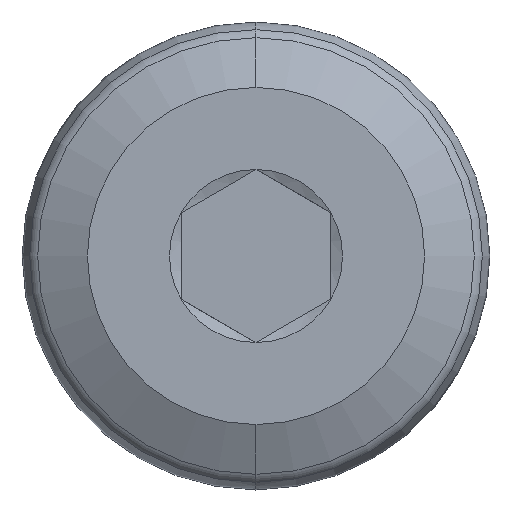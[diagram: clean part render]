
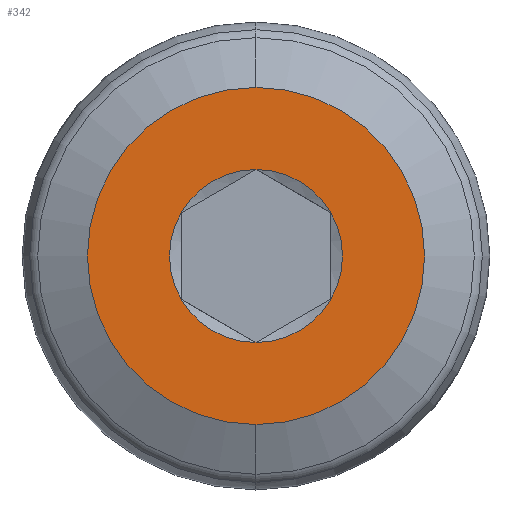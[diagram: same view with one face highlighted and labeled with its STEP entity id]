
A CAD part, left-side view. The second image highlights one B-rep face of the part: STEP entity #342.
In plain terms, the highlighted planar face has unit normal (-1, 0, 0).
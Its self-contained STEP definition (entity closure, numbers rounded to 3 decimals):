
#8 = AXIS2_PLACEMENT_3D ( 'NONE', #683, #812, #485 ) ;
#25 = CIRCLE ( 'NONE', #306, 2.309 ) ;
#35 = EDGE_LOOP ( 'NONE', ( #69, #336 ) ) ;
#39 = FACE_OUTER_BOUND ( 'NONE', #35, .T. ) ;
#55 = PLANE ( 'NONE',  #241 ) ;
#69 = ORIENTED_EDGE ( 'NONE', *, *, #226, .F. ) ;
#73 = DIRECTION ( 'NONE',  ( 1., 0., 0. ) ) ;
#88 = DIRECTION ( 'NONE',  ( 1., 0., 0. ) ) ;
#108 = DIRECTION ( 'NONE',  ( 1., 0., 0. ) ) ;
#114 = CARTESIAN_POINT ( 'NONE',  ( 0., 4.5, 0. ) ) ;
#134 = CIRCLE ( 'NONE', #149, 4.5 ) ;
#149 = AXIS2_PLACEMENT_3D ( 'NONE', #576, #73, #830 ) ;
#150 = DIRECTION ( 'NONE',  ( 1., 0., 0. ) ) ;
#174 = AXIS2_PLACEMENT_3D ( 'NONE', #379, #374, #389 ) ;
#184 = CIRCLE ( 'NONE', #370, 2.309 ) ;
#193 = CARTESIAN_POINT ( 'NONE',  ( 0., 0., -4.5 ) ) ;
#210 = VERTEX_POINT ( 'NONE', #674 ) ;
#213 = DIRECTION ( 'NONE',  ( 1., 0., 0. ) ) ;
#226 = EDGE_CURVE ( 'NONE', #416, #654, #500, .T. ) ;
#232 = DIRECTION ( 'NONE',  ( 0., 0., -1. ) ) ;
#241 = AXIS2_PLACEMENT_3D ( 'NONE', #114, #809, #821 ) ;
#291 = EDGE_CURVE ( 'NONE', #362, #556, #301, .T. ) ;
#301 = CIRCLE ( 'NONE', #823, 2.309 ) ;
#304 = ORIENTED_EDGE ( 'NONE', *, *, #837, .T. ) ;
#306 = AXIS2_PLACEMENT_3D ( 'NONE', #722, #88, #338 ) ;
#307 = CIRCLE ( 'NONE', #8, 2.309 ) ;
#316 = EDGE_LOOP ( 'NONE', ( #827, #432, #544, #380, #304, #760 ) ) ;
#321 = EDGE_CURVE ( 'NONE', #210, #362, #25, .T. ) ;
#326 = CIRCLE ( 'NONE', #174, 2.309 ) ;
#336 = ORIENTED_EDGE ( 'NONE', *, *, #395, .F. ) ;
#338 = DIRECTION ( 'NONE',  ( 0., 0., -1. ) ) ;
#342 = ADVANCED_FACE ( 'NONE', ( #684, #39 ), #55, .T. ) ;
#353 = AXIS2_PLACEMENT_3D ( 'NONE', #410, #150, #483 ) ;
#362 = VERTEX_POINT ( 'NONE', #691 ) ;
#370 = AXIS2_PLACEMENT_3D ( 'NONE', #690, #702, #448 ) ;
#374 = DIRECTION ( 'NONE',  ( 1., 0., 0. ) ) ;
#379 = CARTESIAN_POINT ( 'NONE',  ( 0., 0., 0. ) ) ;
#380 = ORIENTED_EDGE ( 'NONE', *, *, #797, .T. ) ;
#389 = DIRECTION ( 'NONE',  ( 0., 0., -1. ) ) ;
#395 = EDGE_CURVE ( 'NONE', #654, #416, #134, .T. ) ;
#410 = CARTESIAN_POINT ( 'NONE',  ( 0., 0., 0. ) ) ;
#416 = VERTEX_POINT ( 'NONE', #193 ) ;
#432 = ORIENTED_EDGE ( 'NONE', *, *, #321, .T. ) ;
#433 = CARTESIAN_POINT ( 'NONE',  ( 0., 0., -2.309 ) ) ;
#448 = DIRECTION ( 'NONE',  ( 0., 0., -1. ) ) ;
#483 = DIRECTION ( 'NONE',  ( 0., 0., -1. ) ) ;
#485 = DIRECTION ( 'NONE',  ( 0., 0., -1. ) ) ;
#493 = CARTESIAN_POINT ( 'NONE',  ( 0., 0., 4.5 ) ) ;
#500 = CIRCLE ( 'NONE', #353, 4.5 ) ;
#544 = ORIENTED_EDGE ( 'NONE', *, *, #291, .T. ) ;
#554 = CARTESIAN_POINT ( 'NONE',  ( 0., 0., 0. ) ) ;
#556 = VERTEX_POINT ( 'NONE', #732 ) ;
#576 = CARTESIAN_POINT ( 'NONE',  ( 0., 0., 0. ) ) ;
#620 = DIRECTION ( 'NONE',  ( 0., 0., -1. ) ) ;
#654 = VERTEX_POINT ( 'NONE', #493 ) ;
#664 = EDGE_CURVE ( 'NONE', #668, #811, #307, .T. ) ;
#667 = AXIS2_PLACEMENT_3D ( 'NONE', #680, #108, #620 ) ;
#668 = VERTEX_POINT ( 'NONE', #673 ) ;
#673 = CARTESIAN_POINT ( 'NONE',  ( 0., 2., -1.155 ) ) ;
#674 = CARTESIAN_POINT ( 'NONE',  ( 0., 0., 2.309 ) ) ;
#680 = CARTESIAN_POINT ( 'NONE',  ( 0., 0., 0. ) ) ;
#683 = CARTESIAN_POINT ( 'NONE',  ( 0., 0., 0. ) ) ;
#684 = FACE_BOUND ( 'NONE', #316, .T. ) ;
#690 = CARTESIAN_POINT ( 'NONE',  ( 0., 0., 0. ) ) ;
#691 = CARTESIAN_POINT ( 'NONE',  ( 0., -2., 1.155 ) ) ;
#698 = CARTESIAN_POINT ( 'NONE',  ( 0., 2., 1.155 ) ) ;
#699 = EDGE_CURVE ( 'NONE', #811, #210, #775, .T. ) ;
#702 = DIRECTION ( 'NONE',  ( 1., 0., 0. ) ) ;
#722 = CARTESIAN_POINT ( 'NONE',  ( 0., 0., 0. ) ) ;
#723 = VERTEX_POINT ( 'NONE', #433 ) ;
#732 = CARTESIAN_POINT ( 'NONE',  ( 0., -2., -1.155 ) ) ;
#760 = ORIENTED_EDGE ( 'NONE', *, *, #664, .T. ) ;
#775 = CIRCLE ( 'NONE', #667, 2.309 ) ;
#797 = EDGE_CURVE ( 'NONE', #556, #723, #184, .T. ) ;
#809 = DIRECTION ( 'NONE',  ( -1., 0., 0. ) ) ;
#811 = VERTEX_POINT ( 'NONE', #698 ) ;
#812 = DIRECTION ( 'NONE',  ( 1., 0., 0. ) ) ;
#821 = DIRECTION ( 'NONE',  ( 0., 0., 1. ) ) ;
#823 = AXIS2_PLACEMENT_3D ( 'NONE', #554, #213, #232 ) ;
#827 = ORIENTED_EDGE ( 'NONE', *, *, #699, .T. ) ;
#830 = DIRECTION ( 'NONE',  ( 0., 0., -1. ) ) ;
#837 = EDGE_CURVE ( 'NONE', #723, #668, #326, .T. ) ;
